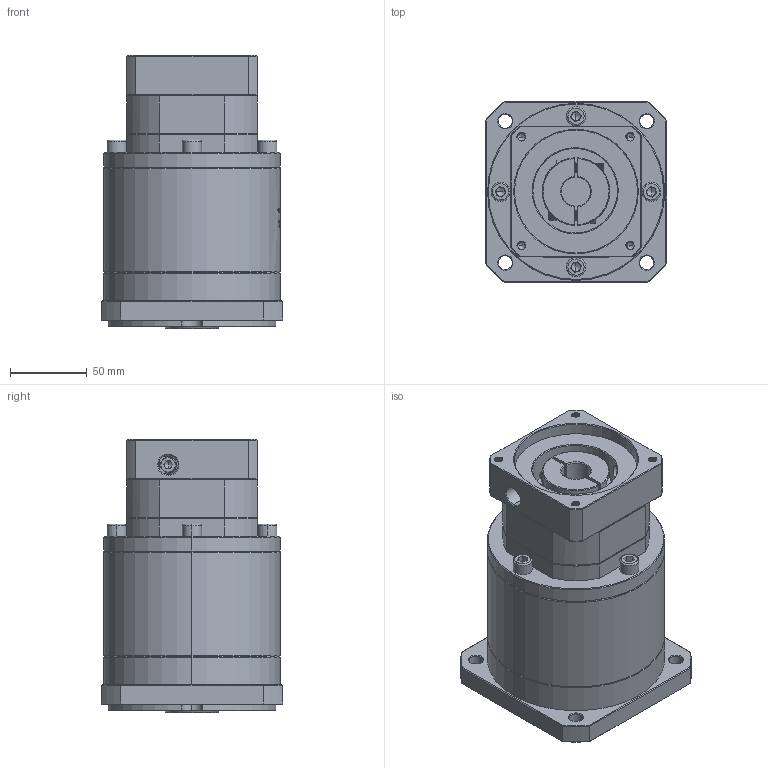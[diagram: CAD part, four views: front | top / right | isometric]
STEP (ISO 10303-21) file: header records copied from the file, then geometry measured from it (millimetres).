
FILE_DESCRIPTION (( 'STEP AP214' ), '1' );
FILE_NAME ('ZF120A-K25-L3-19-80-100-M6.step', '2023-03-07T15:04:30', ( '' ), ( 'Microsoft' ), 'SwSTEP 2.0', 'SolidWorks 2016', '' );
FILE_SCHEMA (( 'AUTOMOTIVE_DESIGN' ));
Length unit declared in the file: millimetre
Products named in the file (1): ZF120A-K25-L3-19-80-100-M6
Bounding box: 118 x 118 x 177.5 mm (x, y, z)
Volume: 1517690.6 mm3; surface area: 135262.3 mm2
Topology: 5 solids, 6 shells, 1881 faces, 4932 edges, 3143 vertices
Faces by surface type: plane 880, cylinder 369, bspline 312, cone 305, torus 15
Entity records: 99725 total; most frequent: CARTESIAN_POINT 36303, ORIENTED_EDGE 9808, DIRECTION 7598, EDGE_CURVE 4904, VERTEX_POINT 3143, LINE 2696, VECTOR 2696, AXIS2_PLACEMENT_3D 2451
